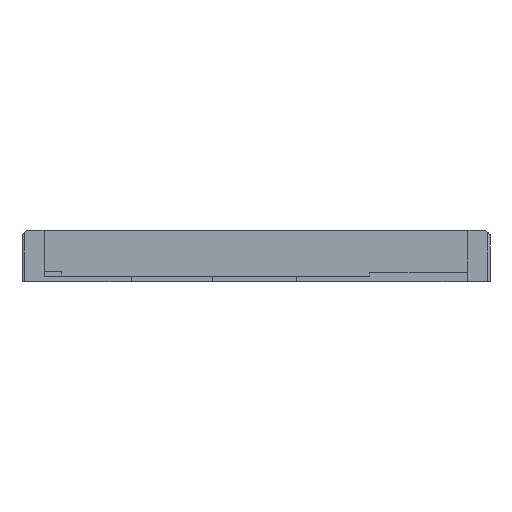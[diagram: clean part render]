
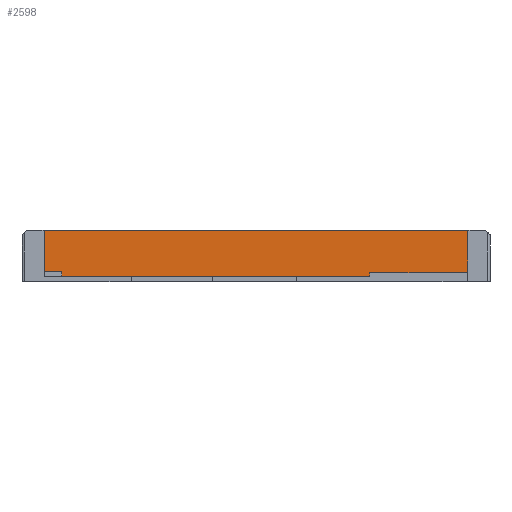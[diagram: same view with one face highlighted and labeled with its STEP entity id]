
A CAD part, left-side view. The second image highlights one B-rep face of the part: STEP entity #2598.
In plain terms, the highlighted planar face has unit normal (-1, 0, 0).
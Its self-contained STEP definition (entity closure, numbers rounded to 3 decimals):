
#193=FACE_OUTER_BOUND('',#348,.T.);
#348=EDGE_LOOP('',(#1940,#1941,#1942,#1943));
#530=LINE('',#3758,#836);
#596=LINE('',#3918,#902);
#620=LINE('',#3967,#926);
#630=LINE('',#3997,#936);
#836=VECTOR('',#3004,10.);
#902=VECTOR('',#3132,10.);
#926=VECTOR('',#3162,10.);
#936=VECTOR('',#3192,10.);
#1134=VERTEX_POINT('',#3755);
#1135=VERTEX_POINT('',#3757);
#1198=VERTEX_POINT('',#3917);
#1220=VERTEX_POINT('',#3966);
#1385=EDGE_CURVE('',#1135,#1134,#530,.T.);
#1465=EDGE_CURVE('',#1198,#1135,#596,.T.);
#1491=EDGE_CURVE('',#1198,#1220,#620,.T.);
#1507=EDGE_CURVE('',#1220,#1134,#630,.T.);
#1940=ORIENTED_EDGE('',*,*,#1491,.F.);
#1941=ORIENTED_EDGE('',*,*,#1465,.T.);
#1942=ORIENTED_EDGE('',*,*,#1385,.T.);
#1943=ORIENTED_EDGE('',*,*,#1507,.F.);
#2488=PLANE('',#2784);
#2598=ADVANCED_FACE('',(#193),#2488,.F.);
#2784=AXIS2_PLACEMENT_3D('',#3998,#3193,#3194);
#3004=DIRECTION('',(0.,-1.,0.));
#3132=DIRECTION('',(0.,0.,-1.));
#3162=DIRECTION('',(0.,-1.,0.));
#3192=DIRECTION('',(0.,0.,-1.));
#3193=DIRECTION('center_axis',(1.,0.,0.));
#3194=DIRECTION('ref_axis',(0.,-1.,0.));
#3755=CARTESIAN_POINT('',(585.646,70.517,-10.4));
#3757=CARTESIAN_POINT('',(585.646,166.569,-10.4));
#3758=CARTESIAN_POINT('',(585.646,142.556,-10.4));
#3917=CARTESIAN_POINT('',(585.646,166.569,0.));
#3918=CARTESIAN_POINT('',(585.646,166.569,0.));
#3966=CARTESIAN_POINT('',(585.646,70.517,0.));
#3967=CARTESIAN_POINT('',(585.646,142.556,0.));
#3997=CARTESIAN_POINT('',(585.646,70.517,0.));
#3998=CARTESIAN_POINT('Origin',(585.646,166.569,0.));
